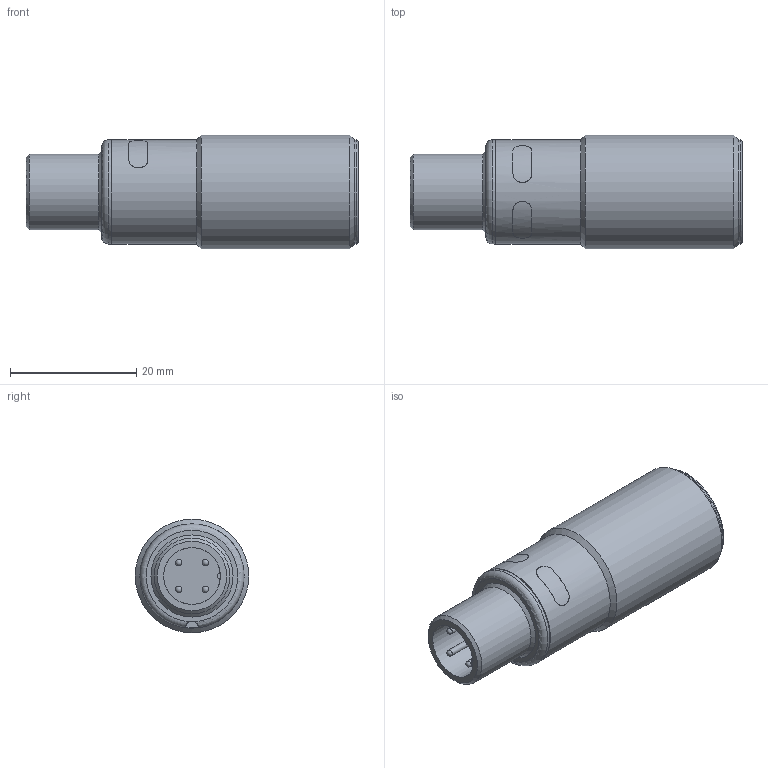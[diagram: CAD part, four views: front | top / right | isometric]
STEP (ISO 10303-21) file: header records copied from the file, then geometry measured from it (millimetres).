
FILE_DESCRIPTION((''),'2;1');
FILE_NAME('J:\Projekte\Kunststoff-Blechteile\Zeichnungen\Bibliothek Inventor\3D Solids\nero\STP\pico+25\nero-25_X.stp','2012-02-27T13:30:42',('Oliver Liedtke'),(''),'Autodesk Inventor 2009','Autodesk Inventor 2009','');
FILE_SCHEMA(('AUTOMOTIVE_DESIGN { 1 0 10303 214 1 1 1 1 }'));
Length unit declared in the file: millimetre
Products named in the file (1): nero-25_X
Bounding box: 52.57 x 18 x 18 mm (x, y, z)
Volume: 10518.9 mm3; surface area: 3407.3 mm2
Topology: 1 solids, 1 shells, 45 faces, 98 edges, 59 vertices
Faces by surface type: cylinder 17, plane 14, bspline 4, sphere 4, cone 4, torus 2
Full cylindrical faces by diameter (mm): 1 x4, 8.5 x1, 9 x1, 12 x1, 14.8 x1, 16.3 x1, 16.5 x3, 18 x1
Entity records: 3244 total; most frequent: CARTESIAN_POINT 2286, DIRECTION 182, ORIENTED_EDGE 136, AXIS2_PLACEMENT_3D 86, EDGE_LOOP 76, EDGE_CURVE 68, VERTEX_POINT 56, FACE_OUTER_BOUND 45
